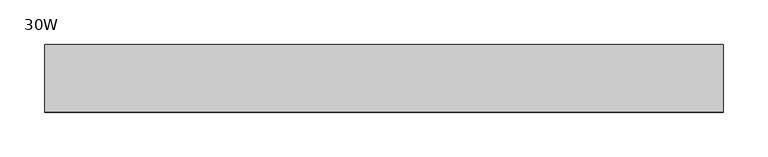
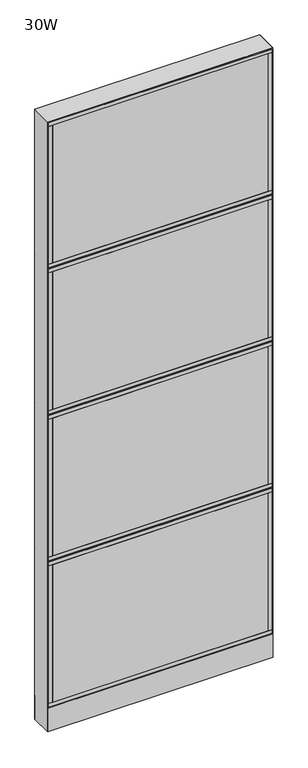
"""IFC4 building model written with IfcOpenShell, lengths in millimetres: furniture geometry, Steelcase - Montage - Frame - 86H - Enhanced Standard - Base Cavity : 30W."""

from ifc_helpers import new_model, si_unit, point, frame, frame_2d, origin, origin_with_axes, place, context, project, spatial, polyline, circle_curve, trimmed, segment, composite_curve, outline, extrude, faceted_brep, source, transform, mapped, element, save


def furniture_30w_b4fbed2b(model_context):
    return source(origin(), model_context, "Body", "SolidModel", [
        extrude(outline(polyline([(746.125, 38.1000015), (746.125, 31.7500017), (15.875, 31.7500017), (15.875, 38.1000015), (746.125, 38.1000015)])), frame((0.0, 0.0, 104.775), z_axis=(0.0, 0.0, 1.0), x_axis=(1.0, 0.0, 0.0)), (0.0, 0.0, 1.0), 492.125),
        extrude(outline(polyline([(746.125, -31.7499985), (746.125, -38.1000015), (15.875, -38.1000015), (15.875, -31.7499985), (746.125, -31.7499985)])), frame((0.0, 0.0, 104.775), z_axis=(0.0, 0.0, 1.0), x_axis=(1.0, 0.0, 0.0)), (0.0, 0.0, 1.0), 492.125),
        extrude(outline(polyline([(758.825, -38.1000015), (746.125, -38.1000015), (746.125, 38.1000015), (758.825, 38.1000015), (758.825, -38.1000015)])), frame((0.0, 0.0, 104.775), z_axis=(0.0, 0.0, 1.0), x_axis=(1.0, 0.0, 0.0)), (0.0, 0.0, 1.0), 492.125),
        extrude(outline(polyline([(15.875, -38.1000015), (3.175, -38.1000015), (3.175, 38.1000015), (15.875, 38.1000015), (15.875, -38.1000015)])), frame((0.0, 0.0, 104.775), z_axis=(0.0, 0.0, 1.0), x_axis=(1.0, 0.0, 0.0)), (0.0, 0.0, 1.0), 492.125),
        extrude(outline(polyline([(758.825, -38.1000015), (3.175, -38.1000015), (3.175, 38.1000015), (758.825, 38.1000015), (758.825, -38.1000015)])), frame((0.0, 0.0, 596.9), z_axis=(0.0, 0.0, 1.0), x_axis=(1.0, 0.0, 0.0)), (0.0, 0.0, 1.0), 12.7),
        extrude(outline(polyline([(758.825, -38.1000015), (3.175, -38.1000015), (3.175, 38.1000015), (758.825, 38.1000015), (758.825, -38.1000015)])), frame((0.0, 0.0, 92.075), z_axis=(0.0, 0.0, 1.0), x_axis=(1.0, 0.0, 0.0)), (0.0, 0.0, 1.0), 12.7),
        extrude(outline(polyline([(746.125, 38.1000015), (746.125, 31.7500017), (15.875, 31.7500017), (15.875, 38.1000015), (746.125, 38.1000015)])), frame((0.0, 0.0, 628.65), z_axis=(0.0, 0.0, 1.0), x_axis=(1.0, 0.0, 0.0)), (0.0, 0.0, 1.0), 492.125),
        extrude(outline(polyline([(746.125, -31.7499985), (746.125, -38.1000015), (15.875, -38.1000015), (15.875, -31.7499985), (746.125, -31.7499985)])), frame((0.0, 0.0, 628.65), z_axis=(0.0, 0.0, 1.0), x_axis=(1.0, 0.0, 0.0)), (0.0, 0.0, 1.0), 492.125),
        extrude(outline(polyline([(758.825, -38.1000015), (746.125, -38.1000015), (746.125, 38.1000015), (758.825, 38.1000015), (758.825, -38.1000015)])), frame((0.0, 0.0, 628.65), z_axis=(0.0, 0.0, 1.0), x_axis=(1.0, 0.0, 0.0)), (0.0, 0.0, 1.0), 492.125),
        extrude(outline(polyline([(15.875, -38.1000015), (3.175, -38.1000015), (3.175, 38.1000015), (15.875, 38.1000015), (15.875, -38.1000015)])), frame((0.0, 0.0, 628.65), z_axis=(0.0, 0.0, 1.0), x_axis=(1.0, 0.0, 0.0)), (0.0, 0.0, 1.0), 492.125),
        extrude(outline(polyline([(758.825, -38.1000015), (3.175, -38.1000015), (3.175, 38.1000015), (758.825, 38.1000015), (758.825, -38.1000015)])), frame((0.0, 0.0, 615.95), z_axis=(0.0, 0.0, 1.0), x_axis=(1.0, 0.0, 0.0)), (0.0, 0.0, 1.0), 12.7),
        extrude(outline(polyline([(758.825, -38.1000015), (3.175, -38.1000015), (3.175, 38.1000015), (758.825, 38.1000015), (758.825, -38.1000015)])), frame((0.0, 0.0, 1120.775), z_axis=(0.0, 0.0, 1.0), x_axis=(1.0, 0.0, 0.0)), (0.0, 0.0, 1.0), 12.7),
        faceted_brep([(-5.4e-06, 38.102627, 612.7750027), (6.3499917, 31.7526299, 619.1249997), (755.6500047, 31.7526299, 619.1249997), (762.0, 38.1026253, 612.7750044), (6.3499917, 31.7526299, 606.4250003), (755.6500047, 31.7526299, 606.4250003)], [[[0, 1, 2, 3]], [[0, 4, 1]], [[3, 5, 4, 0]], [[1, 4, 5, 2]], [[2, 5, 3]]]),
        extrude(outline(polyline([(746.125, 38.1000015), (746.125, 31.7500017), (15.875, 31.7500017), (15.875, 38.1000015), (746.125, 38.1000015)])), frame((0.0, 0.0, 1152.525), z_axis=(0.0, 0.0, 1.0), x_axis=(1.0, 0.0, 0.0)), (0.0, 0.0, 1.0), 492.125),
        extrude(outline(polyline([(746.125, -31.7499985), (746.125, -38.1000015), (15.875, -38.1000015), (15.875, -31.7499985), (746.125, -31.7499985)])), frame((0.0, 0.0, 1152.525), z_axis=(0.0, 0.0, 1.0), x_axis=(1.0, 0.0, 0.0)), (0.0, 0.0, 1.0), 492.125),
        extrude(outline(polyline([(15.875, -38.1000015), (3.175, -38.1000015), (3.175, 38.1000015), (15.875, 38.1000015), (15.875, -38.1000015)])), frame((0.0, 0.0, 1152.525), z_axis=(0.0, 0.0, 1.0), x_axis=(1.0, 0.0, 0.0)), (0.0, 0.0, 1.0), 492.125),
        extrude(outline(polyline([(758.825, -38.1000015), (746.125, -38.1000015), (746.125, 38.1000015), (758.825, 38.1000015), (758.825, -38.1000015)])), frame((0.0, 0.0, 1152.525), z_axis=(0.0, 0.0, 1.0), x_axis=(1.0, 0.0, 0.0)), (0.0, 0.0, 1.0), 492.125),
        extrude(outline(polyline([(758.825, -38.1000015), (3.175, -38.1000015), (3.175, 38.1000015), (758.825, 38.1000015), (758.825, -38.1000015)])), frame((0.0, 0.0, 1644.65), z_axis=(0.0, 0.0, 1.0), x_axis=(1.0, 0.0, 0.0)), (0.0, 0.0, 1.0), 12.7),
        extrude(outline(polyline([(758.825, -38.1000015), (3.175, -38.1000015), (3.175, 38.1000015), (758.825, 38.1000015), (758.825, -38.1000015)])), frame((0.0, 0.0, 1139.825), z_axis=(0.0, 0.0, 1.0), x_axis=(1.0, 0.0, 0.0)), (0.0, 0.0, 1.0), 12.7),
        extrude(outline(polyline([(746.125, 38.1000015), (746.125, 31.7500017), (15.875, 31.7500017), (15.875, 38.1000015), (746.125, 38.1000015)])), frame((0.0, 0.0, 1676.4), z_axis=(0.0, 0.0, 1.0), x_axis=(1.0, 0.0, 0.0)), (0.0, 0.0, 1.0), 492.125),
        extrude(outline(polyline([(746.125, -31.7499985), (746.125, -38.1000015), (15.875, -38.1000015), (15.875, -31.7499985), (746.125, -31.7499985)])), frame((0.0, 0.0, 1676.4), z_axis=(0.0, 0.0, 1.0), x_axis=(1.0, 0.0, 0.0)), (0.0, 0.0, 1.0), 492.125),
        extrude(outline(polyline([(15.875, -38.1000015), (3.175, -38.1000015), (3.175, 38.1000015), (15.875, 38.1000015), (15.875, -38.1000015)])), frame((0.0, 0.0, 1676.4), z_axis=(0.0, 0.0, 1.0), x_axis=(1.0, 0.0, 0.0)), (0.0, 0.0, 1.0), 492.125),
        extrude(outline(polyline([(758.825, -38.1000015), (746.125, -38.1000015), (746.125, 38.1000015), (758.825, 38.1000015), (758.825, -38.1000015)])), frame((0.0, 0.0, 1676.4), z_axis=(0.0, 0.0, 1.0), x_axis=(1.0, 0.0, 0.0)), (0.0, 0.0, 1.0), 492.125),
        extrude(outline(polyline([(758.825, -38.1000015), (3.175, -38.1000015), (3.175, 38.1000015), (758.825, 38.1000015), (758.825, -38.1000015)])), frame((0.0, 0.0, 1663.7), z_axis=(0.0, 0.0, 1.0), x_axis=(1.0, 0.0, 0.0)), (0.0, 0.0, 1.0), 12.7),
        extrude(outline(polyline([(758.825, -38.1000015), (3.175, -38.1000015), (3.175, 38.1000015), (758.825, 38.1000015), (758.825, -38.1000015)])), frame((0.0, 0.0, 2168.525), z_axis=(0.0, 0.0, 1.0), x_axis=(1.0, 0.0, 0.0)), (0.0, 0.0, 1.0), 12.7),
        faceted_brep([(-5.4e-06, 38.102627, 1136.6500027), (6.3499917, 31.7526299, 1142.9999997), (755.6500047, 31.7526299, 1142.9999997), (762.0, 38.1026253, 1136.6500044), (755.6500047, 31.7526299, 1130.3000003), (6.3499917, 31.7526299, 1130.3000003)], [[[0, 1, 2, 3]], [[3, 4, 5, 0]], [[1, 5, 4, 2]], [[0, 5, 1]], [[2, 4, 3]]]),
        faceted_brep([(-5.4e-06, 38.102627, 1660.5250027), (6.3499917, 31.7526299, 1666.8749997), (755.6500047, 31.7526299, 1666.8749997), (762.0, 38.1026253, 1660.5250044), (755.6500047, 31.7526299, 1654.1750003), (6.3499917, 31.7526299, 1654.1750003)], [[[0, 1, 2, 3]], [[2, 4, 3]], [[3, 4, 5, 0]], [[1, 5, 4, 2]], [[0, 5, 1]]]),
        extrude(outline(polyline([(746.125, -38.1000015), (15.875, -38.1000015), (15.875, -31.7500017), (746.125, -31.7500017), (746.125, -38.1000015)])), frame((0.0, 0.0, 104.775), z_axis=(0.0, 0.0, 1.0), x_axis=(1.0, 0.0, 0.0)), (0.0, 0.0, 1.0), 492.125),
        extrude(outline(polyline([(746.125, 31.7499985), (15.875, 31.7499985), (15.875, 38.1000015), (746.125, 38.1000015), (746.125, 31.7499985)])), frame((0.0, 0.0, 104.775), z_axis=(0.0, 0.0, 1.0), x_axis=(1.0, 0.0, 0.0)), (0.0, 0.0, 1.0), 492.125),
        extrude(outline(polyline([(758.825, 38.1000015), (758.825, -38.1000015), (746.125, -38.1000015), (746.125, 38.1000015), (758.825, 38.1000015)])), frame((0.0, 0.0, 104.775), z_axis=(0.0, 0.0, 1.0), x_axis=(1.0, 0.0, 0.0)), (0.0, 0.0, 1.0), 492.125),
        extrude(outline(polyline([(15.875, 38.1000015), (15.875, -38.1000015), (3.175, -38.1000015), (3.175, 38.1000015), (15.875, 38.1000015)])), frame((0.0, 0.0, 104.775), z_axis=(0.0, 0.0, 1.0), x_axis=(1.0, 0.0, 0.0)), (0.0, 0.0, 1.0), 492.125),
        extrude(outline(polyline([(758.825, 38.1000015), (758.825, -38.1000015), (3.175, -38.1000015), (3.175, 38.1000015), (758.825, 38.1000015)])), frame((0.0, 0.0, 596.9), z_axis=(0.0, 0.0, 1.0), x_axis=(1.0, 0.0, 0.0)), (0.0, 0.0, 1.0), 12.7),
        extrude(outline(polyline([(758.825, 38.1000015), (758.825, -38.1000015), (3.175, -38.1000015), (3.175, 38.1000015), (758.825, 38.1000015)])), frame((0.0, 0.0, 92.075), z_axis=(0.0, 0.0, 1.0), x_axis=(1.0, 0.0, 0.0)), (0.0, 0.0, 1.0), 12.7),
        extrude(outline(polyline([(746.125, -38.1000015), (15.875, -38.1000015), (15.875, -31.7500017), (746.125, -31.7500017), (746.125, -38.1000015)])), frame((0.0, 0.0, 628.65), z_axis=(0.0, 0.0, 1.0), x_axis=(1.0, 0.0, 0.0)), (0.0, 0.0, 1.0), 492.125),
        extrude(outline(polyline([(746.125, 31.7499985), (15.875, 31.7499985), (15.875, 38.1000015), (746.125, 38.1000015), (746.125, 31.7499985)])), frame((0.0, 0.0, 628.65), z_axis=(0.0, 0.0, 1.0), x_axis=(1.0, 0.0, 0.0)), (0.0, 0.0, 1.0), 492.125),
        extrude(outline(polyline([(758.825, 38.1000015), (758.825, -38.1000015), (746.125, -38.1000015), (746.125, 38.1000015), (758.825, 38.1000015)])), frame((0.0, 0.0, 628.65), z_axis=(0.0, 0.0, 1.0), x_axis=(1.0, 0.0, 0.0)), (0.0, 0.0, 1.0), 492.125),
        extrude(outline(polyline([(15.875, 38.1000015), (15.875, -38.1000015), (3.175, -38.1000015), (3.175, 38.1000015), (15.875, 38.1000015)])), frame((0.0, 0.0, 628.65), z_axis=(0.0, 0.0, 1.0), x_axis=(1.0, 0.0, 0.0)), (0.0, 0.0, 1.0), 492.125),
        extrude(outline(polyline([(758.825, 38.1000015), (758.825, -38.1000015), (3.175, -38.1000015), (3.175, 38.1000015), (758.825, 38.1000015)])), frame((0.0, 0.0, 615.95), z_axis=(0.0, 0.0, 1.0), x_axis=(1.0, 0.0, 0.0)), (0.0, 0.0, 1.0), 12.7),
        extrude(outline(polyline([(758.825, 38.1000015), (758.825, -38.1000015), (3.175, -38.1000015), (3.175, 38.1000015), (758.825, 38.1000015)])), frame((0.0, 0.0, 1120.775), z_axis=(0.0, 0.0, 1.0), x_axis=(1.0, 0.0, 0.0)), (0.0, 0.0, 1.0), 12.7),
        faceted_brep([(0.0, -38.1026297, 612.775), (762.0, -38.1026297, 612.775), (755.6500047, -31.7526299, 619.1249997), (6.3499917, -31.7526299, 619.1249997), (6.3499917, -31.7526299, 606.4250003), (755.6500047, -31.7526299, 606.4250003)], [[[0, 1, 2, 3]], [[0, 3, 4]], [[1, 0, 4, 5]], [[3, 2, 5, 4]], [[2, 1, 5]]]),
        extrude(outline(polyline([(746.125, -38.1000015), (15.875, -38.1000015), (15.875, -31.7500017), (746.125, -31.7500017), (746.125, -38.1000015)])), frame((0.0, 0.0, 1152.525), z_axis=(0.0, 0.0, 1.0), x_axis=(1.0, 0.0, 0.0)), (0.0, 0.0, 1.0), 492.125),
        extrude(outline(polyline([(746.125, 31.7499985), (15.875, 31.7499985), (15.875, 38.1000015), (746.125, 38.1000015), (746.125, 31.7499985)])), frame((0.0, 0.0, 1152.525), z_axis=(0.0, 0.0, 1.0), x_axis=(1.0, 0.0, 0.0)), (0.0, 0.0, 1.0), 492.125),
        extrude(outline(polyline([(758.825, 38.1000015), (758.825, -38.1000015), (746.125, -38.1000015), (746.125, 38.1000015), (758.825, 38.1000015)])), frame((0.0, 0.0, 1152.525), z_axis=(0.0, 0.0, 1.0), x_axis=(1.0, 0.0, 0.0)), (0.0, 0.0, 1.0), 492.125),
        extrude(outline(polyline([(15.875, 38.1000015), (15.875, -38.1000015), (3.175, -38.1000015), (3.175, 38.1000015), (15.875, 38.1000015)])), frame((0.0, 0.0, 1152.525), z_axis=(0.0, 0.0, 1.0), x_axis=(1.0, 0.0, 0.0)), (0.0, 0.0, 1.0), 492.125),
        extrude(outline(polyline([(758.825, 38.1000015), (758.825, -38.1000015), (3.175, -38.1000015), (3.175, 38.1000015), (758.825, 38.1000015)])), frame((0.0, 0.0, 1644.65), z_axis=(0.0, 0.0, 1.0), x_axis=(1.0, 0.0, 0.0)), (0.0, 0.0, 1.0), 12.7),
        extrude(outline(polyline([(758.825, 38.1000015), (758.825, -38.1000015), (3.175, -38.1000015), (3.175, 38.1000015), (758.825, 38.1000015)])), frame((0.0, 0.0, 1139.825), z_axis=(0.0, 0.0, 1.0), x_axis=(1.0, 0.0, 0.0)), (0.0, 0.0, 1.0), 12.7),
        extrude(outline(polyline([(746.125, -38.1000015), (15.875, -38.1000015), (15.875, -31.7500017), (746.125, -31.7500017), (746.125, -38.1000015)])), frame((0.0, 0.0, 1676.4), z_axis=(0.0, 0.0, 1.0), x_axis=(1.0, 0.0, 0.0)), (0.0, 0.0, 1.0), 492.125),
        extrude(outline(polyline([(746.125, 31.7499985), (15.875, 31.7499985), (15.875, 38.1000015), (746.125, 38.1000015), (746.125, 31.7499985)])), frame((0.0, 0.0, 1676.4), z_axis=(0.0, 0.0, 1.0), x_axis=(1.0, 0.0, 0.0)), (0.0, 0.0, 1.0), 492.125),
        extrude(outline(polyline([(758.825, 38.1000015), (758.825, -38.1000015), (746.125, -38.1000015), (746.125, 38.1000015), (758.825, 38.1000015)])), frame((0.0, 0.0, 1676.4), z_axis=(0.0, 0.0, 1.0), x_axis=(1.0, 0.0, 0.0)), (0.0, 0.0, 1.0), 492.125),
        extrude(outline(polyline([(15.875, 38.1000015), (15.875, -38.1000015), (3.175, -38.1000015), (3.175, 38.1000015), (15.875, 38.1000015)])), frame((0.0, 0.0, 1676.4), z_axis=(0.0, 0.0, 1.0), x_axis=(1.0, 0.0, 0.0)), (0.0, 0.0, 1.0), 492.125),
        extrude(outline(polyline([(758.825, 38.1000015), (758.825, -38.1000015), (3.175, -38.1000015), (3.175, 38.1000015), (758.825, 38.1000015)])), frame((0.0, 0.0, 1663.7), z_axis=(0.0, 0.0, 1.0), x_axis=(1.0, 0.0, 0.0)), (0.0, 0.0, 1.0), 12.7),
        extrude(outline(polyline([(758.825, 38.1000015), (758.825, -38.1000015), (3.175, -38.1000015), (3.175, 38.1000015), (758.825, 38.1000015)])), frame((0.0, 0.0, 2168.525), z_axis=(0.0, 0.0, 1.0), x_axis=(1.0, 0.0, 0.0)), (0.0, 0.0, 1.0), 12.7),
        faceted_brep([(0.0, -38.1026297, 1136.65), (762.0, -38.1026297, 1136.65), (755.6500047, -31.7526299, 1142.9999997), (6.3499917, -31.7526299, 1142.9999997), (6.3499917, -31.7526299, 1130.3000003), (755.6500047, -31.7526299, 1130.3000003)], [[[0, 1, 2, 3]], [[1, 0, 4, 5]], [[3, 2, 5, 4]], [[0, 3, 4]], [[2, 1, 5]]]),
        faceted_brep([(0.0, -38.1026297, 1660.525), (762.0, -38.1026297, 1660.525), (755.6500047, -31.7526299, 1666.8749997), (6.3499917, -31.7526299, 1666.8749997), (755.6500047, -31.7526299, 1654.1750003), (6.3499917, -31.7526299, 1654.1750003)], [[[0, 1, 2, 3]], [[2, 1, 4]], [[1, 0, 5, 4]], [[3, 2, 4, 5]], [[0, 3, 5]]]),
        extrude(outline(polyline([(6.350003, -31.7499985), (755.649997, -31.7499985), (762.0, -38.1000015), (0.0, -38.1000015), (6.350003, -31.7499985)])), frame((0.0, 0.0, 4.064), z_axis=(0.0, 0.0, 1.0), x_axis=(1.0, 0.0, 0.0)), (0.0, 0.0, 1.0), 84.835997),
        extrude(outline(polyline([(6.3500002, 31.7500017), (0.0, 38.1000015), (762.0, 38.1000015), (755.6500002, 31.7500017), (6.3500002, 31.7500017)])), frame((0.0, 0.0, 4.064), z_axis=(0.0, 0.0, 1.0), x_axis=(1.0, 0.0, 0.0)), (0.0, 0.0, 1.0), 84.835997),
        faceted_brep([(762.0, -38.1000015, 2184.4), (0.0, -38.1000015, 2184.4), (6.3500484, -31.749953, 2178.0499516), (755.6499516, -31.749953, 2178.0499516), (6.3500484, 31.749953, 2178.0499516), (755.6499516, 31.749953, 2178.0499516), (0.0, 38.1000015, 2184.4), (762.0, 38.1000015, 2184.4)], [[[0, 1, 2, 3]], [[3, 2, 4, 5]], [[6, 7, 5, 4]], [[1, 0, 7, 6]], [[2, 1, 6, 4]], [[0, 3, 5, 7]]]),
        extrude(outline(composite_curve([segment(trimmed(circle_curve(frame_2d((44.45, 0.0)), 15.24), [point((29.21, 0.0))], [point((59.69, 0.0))], False, "CARTESIAN"), True, "CONTINUOUS"), segment(trimmed(circle_curve(frame_2d((44.45, 0.0)), 15.24), [point((59.69, 0.0))], [point((29.21, 0.0))], False, "CARTESIAN"), True, "CONTINUOUS")], self_intersect=False)), origin_with_axes(), (0.0, 0.0, 1.0), 4.064),
        extrude(outline(composite_curve([segment(trimmed(circle_curve(frame_2d((717.55, 0.0)), 15.24), [point((702.31, 0.0))], [point((732.79, 0.0))], False, "CARTESIAN"), True, "CONTINUOUS"), segment(trimmed(circle_curve(frame_2d((717.55, 0.0)), 15.24), [point((732.79, 0.0))], [point((702.31, 0.0))], False, "CARTESIAN"), True, "CONTINUOUS")], self_intersect=False)), origin_with_axes(), (0.0, 0.0, 1.0), 4.064),
        faceted_brep([(762.0, -38.1000106, 4.064), (762.0, 38.1000015, 4.064), (762.0, 38.1000015, 2184.4), (762.0, -38.1000106, 2184.3999637), (0.0, 38.1000015, 4.064), (0.0, -38.1000015, 4.064), (0.0, -38.1000015, 2184.4), (0.0, 38.1000015, 2184.4), (755.6499879, 31.7500017, 606.425), (6.35, 31.7500017, 606.425), (6.3499998, 31.7500017, 619.125), (755.6499879, 31.7500017, 619.125), (6.35, -31.7499985, 619.125), (755.6499879, -31.7499985, 619.125), (6.350003, -31.7499985, 606.425), (755.6499879, -31.7499985, 606.425), (755.6499879, 31.7500017, 1130.3), (6.35, 31.7500017, 1130.3), (6.3499998, 31.7500017, 1143.0), (755.6499879, 31.7500017, 1143.0), (6.35, -31.7499985, 1143.0), (755.6499879, -31.7499985, 1143.0), (6.350003, -31.7499985, 1130.3), (755.6499879, -31.7499985, 1130.3), (755.6499879, 31.7500017, 1654.175), (6.35, 31.7500017, 1654.175), (6.3499998, 31.7500017, 1666.875), (755.6499879, 31.7500017, 1666.875), (6.35, -31.7499985, 1666.875), (755.6499879, -31.7499985, 1666.875), (6.350003, -31.7499985, 1654.175), (755.6499879, -31.7499985, 1654.175), (6.35, 31.7500015, 4.064), (6.35, -31.7500015, 4.064), (755.6499879, 31.7499894, 4.064), (755.6499879, -31.7499985, 4.064), (6.35, 31.7500015, 2178.05), (6.35, -31.7500015, 2178.05), (755.6499879, -31.7499985, 2178.0499516), (755.6499879, 31.7499895, 2178.0499516)], [[[0, 1, 2, 3]], [[4, 5, 6, 7]], [[8, 9, 10, 11]], [[11, 10, 12, 13]], [[13, 12, 14, 15]], [[9, 8, 15, 14]], [[16, 17, 18, 19]], [[19, 18, 20, 21]], [[21, 20, 22, 23]], [[17, 16, 23, 22]], [[24, 25, 26, 27]], [[27, 26, 28, 29]], [[29, 28, 30, 31]], [[25, 24, 31, 30]], [[32, 33, 5, 4]], [[34, 1, 0, 35]], [[32, 4, 7, 36, 26, 25, 18, 17, 10, 9]], [[5, 33, 14, 12, 22, 20, 30, 28, 37, 6]], [[28, 26, 36, 37]], [[33, 32, 9, 14]], [[18, 25, 30, 20]], [[10, 17, 22, 12]], [[27, 29, 38, 39]], [[34, 35, 15, 8]], [[16, 11, 13, 23]], [[24, 19, 21, 31]], [[35, 0, 3, 38, 29, 31, 21, 23, 13, 15]], [[1, 34, 8, 11, 16, 19, 24, 27, 39, 2]], [[7, 6, 37, 36]], [[3, 2, 39, 38]]]),
    ])


if __name__ == "__main__":
    model = new_model("IFC4")
    model_context = context("Model", 3, world=origin())
    ifc_project = project(units=[si_unit("LENGTHUNIT", "METRE", prefix="MILLI")], contexts=[model_context])
    site = spatial("IfcSite", under=ifc_project)
    building = spatial("IfcBuilding", under=site)
    placement = place(None, origin())
    furniture_30w_shape = furniture_30w_b4fbed2b(model_context)
    element("IfcFurniture", 1, ObjectType="Steelcase - Montage - Frame - 86H - Enhanced Standard - Base Cavity : 30W", at=placement, inside=building, context=model_context, shape_type="MappedRepresentation", body=[
        mapped(furniture_30w_shape, transform((0.0, 0.0, 0.0), x_axis=(1.0, 0.0, 0.0), y_axis=(0.0, 1.0, 0.0), z_axis=(0.0, 0.0, 1.0))),
    ])
    save(model, "model.ifc")
